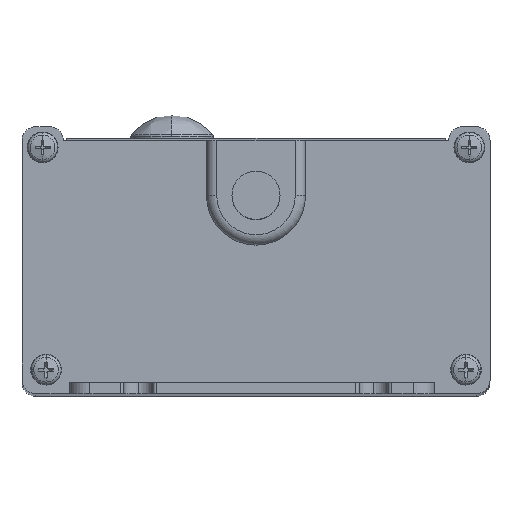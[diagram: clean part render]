
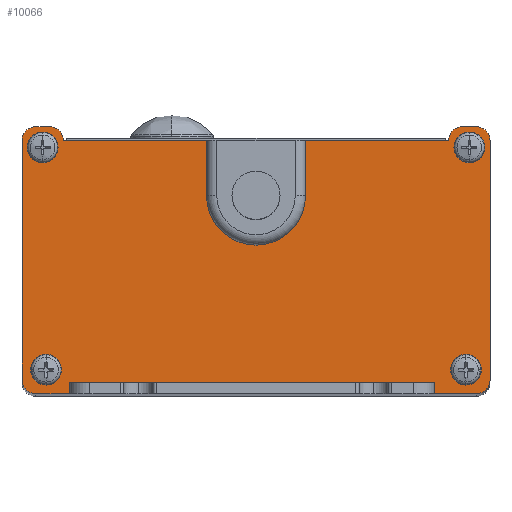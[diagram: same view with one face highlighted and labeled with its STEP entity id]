
A CAD part, top view. The second image highlights one B-rep face of the part: STEP entity #10066.
In plain terms, the highlighted planar face has unit normal (0, 0, 1).
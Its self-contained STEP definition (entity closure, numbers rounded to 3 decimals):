
#9029=DIRECTION('',(1.,0.,0.));
#9030=VECTOR('',#9029,53.);
#9031=CARTESIAN_POINT('',(-27.125,-27.2,1.6));
#9032=LINE('',#9031,#9030);
#9139=CARTESIAN_POINT('',(30.,8.,1.6));
#9140=DIRECTION('',(0.,0.,-1.));
#9141=DIRECTION('',(-1.,0.,0.));
#9142=AXIS2_PLACEMENT_3D('',#9139,#9140,#9141);
#9144=CARTESIAN_POINT('',(32.,8.,1.6));
#9145=DIRECTION('',(0.,0.,-1.));
#9146=DIRECTION('',(0.,1.,0.));
#9147=AXIS2_PLACEMENT_3D('',#9144,#9145,#9146);
#9149=CARTESIAN_POINT('',(32.,-26.8,1.6));
#9150=DIRECTION('',(0.,0.,-1.));
#9151=DIRECTION('',(1.,0.,0.));
#9152=AXIS2_PLACEMENT_3D('',#9149,#9150,#9151);
#9154=CARTESIAN_POINT('',(-32.,-26.8,1.6));
#9155=DIRECTION('',(0.,0.,-1.));
#9156=DIRECTION('',(0.,-1.,0.));
#9157=AXIS2_PLACEMENT_3D('',#9154,#9155,#9156);
#9159=CARTESIAN_POINT('',(-32.,8.,1.6));
#9160=DIRECTION('',(0.,0.,-1.));
#9161=DIRECTION('',(-1.,0.,0.));
#9162=AXIS2_PLACEMENT_3D('',#9159,#9160,#9161);
#9164=CARTESIAN_POINT('',(-30.,8.,1.6));
#9165=DIRECTION('',(0.,0.,-1.));
#9166=DIRECTION('',(0.,1.,0.));
#9167=AXIS2_PLACEMENT_3D('',#9164,#9165,#9166);
#9169=CARTESIAN_POINT('',(-5.75,7.5,1.6));
#9170=DIRECTION('',(0.,0.,-1.));
#9171=DIRECTION('',(0.,1.,0.));
#9172=AXIS2_PLACEMENT_3D('',#9169,#9170,#9171);
#9174=CARTESIAN_POINT('',(0.,0.,1.6));
#9175=DIRECTION('',(0.,0.,1.));
#9176=DIRECTION('',(-1.,0.,0.));
#9177=AXIS2_PLACEMENT_3D('',#9174,#9175,#9176);
#9179=CARTESIAN_POINT('',(5.75,7.5,1.6));
#9180=DIRECTION('',(0.,0.,-1.));
#9181=DIRECTION('',(-1.,0.,0.));
#9182=AXIS2_PLACEMENT_3D('',#9179,#9180,#9181);
#9184=CARTESIAN_POINT('',(31.,-25.8,1.6));
#9185=DIRECTION('',(0.,0.,1.));
#9186=DIRECTION('',(-1.,0.,0.));
#9187=AXIS2_PLACEMENT_3D('',#9184,#9185,#9186);
#9189=CARTESIAN_POINT('',(31.,-25.8,1.6));
#9190=DIRECTION('',(0.,0.,1.));
#9191=DIRECTION('',(1.,0.,0.));
#9192=AXIS2_PLACEMENT_3D('',#9189,#9190,#9191);
#9194=CARTESIAN_POINT('',(-31.,7.,1.6));
#9195=DIRECTION('',(0.,0.,1.));
#9196=DIRECTION('',(-1.,0.,0.));
#9197=AXIS2_PLACEMENT_3D('',#9194,#9195,#9196);
#9199=CARTESIAN_POINT('',(-31.,7.,1.6));
#9200=DIRECTION('',(0.,0.,1.));
#9201=DIRECTION('',(1.,0.,0.));
#9202=AXIS2_PLACEMENT_3D('',#9199,#9200,#9201);
#9204=CARTESIAN_POINT('',(-31.,-25.8,1.6));
#9205=DIRECTION('',(0.,0.,1.));
#9206=DIRECTION('',(-1.,0.,0.));
#9207=AXIS2_PLACEMENT_3D('',#9204,#9205,#9206);
#9209=CARTESIAN_POINT('',(-31.,-25.8,1.6));
#9210=DIRECTION('',(0.,0.,1.));
#9211=DIRECTION('',(1.,0.,0.));
#9212=AXIS2_PLACEMENT_3D('',#9209,#9210,#9211);
#9214=CARTESIAN_POINT('',(31.,7.,1.6));
#9215=DIRECTION('',(0.,0.,1.));
#9216=DIRECTION('',(-1.,0.,0.));
#9217=AXIS2_PLACEMENT_3D('',#9214,#9215,#9216);
#9219=CARTESIAN_POINT('',(31.,7.,1.6));
#9220=DIRECTION('',(0.,0.,1.));
#9221=DIRECTION('',(1.,0.,0.));
#9222=AXIS2_PLACEMENT_3D('',#9219,#9220,#9221);
#9224=DIRECTION('',(-1.,0.,0.));
#9225=VECTOR('',#9224,22.25);
#9226=CARTESIAN_POINT('',(28.,8.,1.6));
#9227=LINE('',#9226,#9225);
#9349=DIRECTION('',(0.,-1.,0.));
#9350=VECTOR('',#9349,7.5);
#9351=CARTESIAN_POINT('',(5.25,7.5,1.6));
#9352=LINE('',#9351,#9350);
#9361=DIRECTION('',(0.,1.,0.));
#9362=VECTOR('',#9361,7.5);
#9363=CARTESIAN_POINT('',(-5.25,0.,1.6));
#9364=LINE('',#9363,#9362);
#9373=DIRECTION('',(-1.,0.,0.));
#9374=VECTOR('',#9373,22.25);
#9375=CARTESIAN_POINT('',(-5.75,8.,1.6));
#9376=LINE('',#9375,#9374);
#9385=DIRECTION('',(-1.,0.,0.));
#9386=VECTOR('',#9385,2.);
#9387=CARTESIAN_POINT('',(-30.,10.,1.6));
#9388=LINE('',#9387,#9386);
#9397=DIRECTION('',(0.,-1.,0.));
#9398=VECTOR('',#9397,34.8);
#9399=CARTESIAN_POINT('',(-34.,8.,1.6));
#9400=LINE('',#9399,#9398);
#9409=DIRECTION('',(1.,0.,0.));
#9410=VECTOR('',#9409,6.125);
#9411=CARTESIAN_POINT('',(25.875,-28.8,1.6));
#9412=LINE('',#9411,#9410);
#9413=DIRECTION('',(1.,0.,0.));
#9414=VECTOR('',#9413,4.875);
#9415=CARTESIAN_POINT('',(-32.,-28.8,1.6));
#9416=LINE('',#9415,#9414);
#9503=DIRECTION('',(0.,1.,0.));
#9504=VECTOR('',#9503,34.8);
#9505=CARTESIAN_POINT('',(34.,-26.8,1.6));
#9506=LINE('',#9505,#9504);
#9515=DIRECTION('',(-1.,0.,0.));
#9516=VECTOR('',#9515,2.);
#9517=CARTESIAN_POINT('',(32.,10.,1.6));
#9518=LINE('',#9517,#9516);
#9527=DIRECTION('',(0.,1.,0.));
#9528=VECTOR('',#9527,1.6);
#9529=CARTESIAN_POINT('',(-27.125,-28.8,1.6));
#9530=LINE('',#9529,#9528);
#9635=DIRECTION('',(0.,-1.,0.));
#9636=VECTOR('',#9635,1.6);
#9637=CARTESIAN_POINT('',(25.875,-27.2,1.6));
#9638=LINE('',#9637,#9636);
#9715=CARTESIAN_POINT('',(-27.125,-27.2,1.6));
#9716=CARTESIAN_POINT('',(25.875,-27.2,1.6));
#9717=VERTEX_POINT('',#9715);
#9718=VERTEX_POINT('',#9716);
#9763=CARTESIAN_POINT('',(28.,8.,1.6));
#9764=CARTESIAN_POINT('',(5.75,8.,1.6));
#9765=VERTEX_POINT('',#9763);
#9766=VERTEX_POINT('',#9764);
#9767=CARTESIAN_POINT('',(30.,10.,1.6));
#9768=VERTEX_POINT('',#9767);
#9769=CARTESIAN_POINT('',(32.,10.,1.6));
#9770=VERTEX_POINT('',#9769);
#9771=CARTESIAN_POINT('',(34.,8.,1.6));
#9772=VERTEX_POINT('',#9771);
#9773=CARTESIAN_POINT('',(34.,-26.8,1.6));
#9774=VERTEX_POINT('',#9773);
#9775=CARTESIAN_POINT('',(32.,-28.8,1.6));
#9776=VERTEX_POINT('',#9775);
#9777=CARTESIAN_POINT('',(25.875,-28.8,1.6));
#9778=VERTEX_POINT('',#9777);
#9779=CARTESIAN_POINT('',(-27.125,-28.8,1.6));
#9780=VERTEX_POINT('',#9779);
#9781=CARTESIAN_POINT('',(-32.,-28.8,1.6));
#9782=VERTEX_POINT('',#9781);
#9783=CARTESIAN_POINT('',(-34.,-26.8,1.6));
#9784=VERTEX_POINT('',#9783);
#9785=CARTESIAN_POINT('',(-34.,8.,1.6));
#9786=VERTEX_POINT('',#9785);
#9787=CARTESIAN_POINT('',(-32.,10.,1.6));
#9788=VERTEX_POINT('',#9787);
#9789=CARTESIAN_POINT('',(-30.,10.,1.6));
#9790=VERTEX_POINT('',#9789);
#9791=CARTESIAN_POINT('',(-28.,8.,1.6));
#9792=VERTEX_POINT('',#9791);
#9793=CARTESIAN_POINT('',(-5.75,8.,1.6));
#9794=VERTEX_POINT('',#9793);
#9795=CARTESIAN_POINT('',(-5.25,7.5,1.6));
#9796=VERTEX_POINT('',#9795);
#9797=CARTESIAN_POINT('',(-5.25,0.,1.6));
#9798=VERTEX_POINT('',#9797);
#9799=CARTESIAN_POINT('',(5.25,0.,1.6));
#9800=VERTEX_POINT('',#9799);
#9801=CARTESIAN_POINT('',(5.25,7.5,1.6));
#9802=VERTEX_POINT('',#9801);
#9803=CARTESIAN_POINT('',(29.5,-25.8,1.6));
#9804=CARTESIAN_POINT('',(32.5,-25.8,1.6));
#9805=VERTEX_POINT('',#9803);
#9806=VERTEX_POINT('',#9804);
#9807=CARTESIAN_POINT('',(-32.5,7.,1.6));
#9808=CARTESIAN_POINT('',(-29.5,7.,1.6));
#9809=VERTEX_POINT('',#9807);
#9810=VERTEX_POINT('',#9808);
#9811=CARTESIAN_POINT('',(-32.5,-25.8,1.6));
#9812=CARTESIAN_POINT('',(-29.5,-25.8,1.6));
#9813=VERTEX_POINT('',#9811);
#9814=VERTEX_POINT('',#9812);
#9815=CARTESIAN_POINT('',(29.5,7.,1.6));
#9816=CARTESIAN_POINT('',(32.5,7.,1.6));
#9817=VERTEX_POINT('',#9815);
#9818=VERTEX_POINT('',#9816);
#9992=CARTESIAN_POINT('',(-32.,8.,1.6));
#9993=DIRECTION('',(0.,0.,-1.));
#9994=DIRECTION('',(-1.,0.,0.));
#9995=AXIS2_PLACEMENT_3D('',#9992,#9993,#9994);
#9996=PLANE('',#9995);
#9998=ORIENTED_EDGE('',*,*,#9997,.F.);
#10000=ORIENTED_EDGE('',*,*,#9999,.T.);
#10002=ORIENTED_EDGE('',*,*,#10001,.F.);
#10004=ORIENTED_EDGE('',*,*,#10003,.T.);
#10006=ORIENTED_EDGE('',*,*,#10005,.F.);
#10008=ORIENTED_EDGE('',*,*,#10007,.T.);
#10010=ORIENTED_EDGE('',*,*,#10009,.F.);
#10012=ORIENTED_EDGE('',*,*,#10011,.F.);
#10013=ORIENTED_EDGE('',*,*,#9936,.F.);
#10015=ORIENTED_EDGE('',*,*,#10014,.F.);
#10017=ORIENTED_EDGE('',*,*,#10016,.F.);
#10019=ORIENTED_EDGE('',*,*,#10018,.T.);
#10021=ORIENTED_EDGE('',*,*,#10020,.F.);
#10023=ORIENTED_EDGE('',*,*,#10022,.T.);
#10025=ORIENTED_EDGE('',*,*,#10024,.F.);
#10027=ORIENTED_EDGE('',*,*,#10026,.T.);
#10029=ORIENTED_EDGE('',*,*,#10028,.F.);
#10031=ORIENTED_EDGE('',*,*,#10030,.T.);
#10033=ORIENTED_EDGE('',*,*,#10032,.F.);
#10035=ORIENTED_EDGE('',*,*,#10034,.T.);
#10037=ORIENTED_EDGE('',*,*,#10036,.F.);
#10039=ORIENTED_EDGE('',*,*,#10038,.T.);
#10040=EDGE_LOOP('',(#9998,#10000,#10002,#10004,#10006,#10008,#10010,#10012,
#10013,#10015,#10017,#10019,#10021,#10023,#10025,#10027,#10029,#10031,#10033,
#10035,#10037,#10039));
#10041=FACE_OUTER_BOUND('',#10040,.F.);
#10043=ORIENTED_EDGE('',*,*,#10042,.T.);
#10045=ORIENTED_EDGE('',*,*,#10044,.T.);
#10046=EDGE_LOOP('',(#10043,#10045));
#10047=FACE_BOUND('',#10046,.F.);
#10049=ORIENTED_EDGE('',*,*,#10048,.T.);
#10051=ORIENTED_EDGE('',*,*,#10050,.T.);
#10052=EDGE_LOOP('',(#10049,#10051));
#10053=FACE_BOUND('',#10052,.F.);
#10055=ORIENTED_EDGE('',*,*,#10054,.T.);
#10057=ORIENTED_EDGE('',*,*,#10056,.T.);
#10058=EDGE_LOOP('',(#10055,#10057));
#10059=FACE_BOUND('',#10058,.F.);
#10061=ORIENTED_EDGE('',*,*,#10060,.T.);
#10063=ORIENTED_EDGE('',*,*,#10062,.T.);
#10064=EDGE_LOOP('',(#10061,#10063));
#10065=FACE_BOUND('',#10064,.F.);
#9143=CIRCLE('',#9142,2.);
#9148=CIRCLE('',#9147,2.);
#9153=CIRCLE('',#9152,2.);
#9158=CIRCLE('',#9157,2.);
#9163=CIRCLE('',#9162,2.);
#9168=CIRCLE('',#9167,2.);
#9173=CIRCLE('',#9172,0.5);
#9178=CIRCLE('',#9177,5.25);
#9183=CIRCLE('',#9182,0.5);
#9188=CIRCLE('',#9187,1.5);
#9193=CIRCLE('',#9192,1.5);
#9198=CIRCLE('',#9197,1.5);
#9203=CIRCLE('',#9202,1.5);
#9208=CIRCLE('',#9207,1.5);
#9213=CIRCLE('',#9212,1.5);
#9218=CIRCLE('',#9217,1.5);
#9223=CIRCLE('',#9222,1.5);
#9936=EDGE_CURVE('',#9717,#9718,#9032,.T.);
#9997=EDGE_CURVE('',#9765,#9766,#9227,.T.);
#9999=EDGE_CURVE('',#9765,#9768,#9143,.T.);
#10001=EDGE_CURVE('',#9770,#9768,#9518,.T.);
#10003=EDGE_CURVE('',#9770,#9772,#9148,.T.);
#10005=EDGE_CURVE('',#9774,#9772,#9506,.T.);
#10007=EDGE_CURVE('',#9774,#9776,#9153,.T.);
#10009=EDGE_CURVE('',#9778,#9776,#9412,.T.);
#10011=EDGE_CURVE('',#9718,#9778,#9638,.T.);
#10014=EDGE_CURVE('',#9780,#9717,#9530,.T.);
#10016=EDGE_CURVE('',#9782,#9780,#9416,.T.);
#10018=EDGE_CURVE('',#9782,#9784,#9158,.T.);
#10020=EDGE_CURVE('',#9786,#9784,#9400,.T.);
#10022=EDGE_CURVE('',#9786,#9788,#9163,.T.);
#10024=EDGE_CURVE('',#9790,#9788,#9388,.T.);
#10026=EDGE_CURVE('',#9790,#9792,#9168,.T.);
#10028=EDGE_CURVE('',#9794,#9792,#9376,.T.);
#10030=EDGE_CURVE('',#9794,#9796,#9173,.T.);
#10032=EDGE_CURVE('',#9798,#9796,#9364,.T.);
#10034=EDGE_CURVE('',#9798,#9800,#9178,.T.);
#10036=EDGE_CURVE('',#9802,#9800,#9352,.T.);
#10038=EDGE_CURVE('',#9802,#9766,#9183,.T.);
#10042=EDGE_CURVE('',#9805,#9806,#9188,.T.);
#10044=EDGE_CURVE('',#9806,#9805,#9193,.T.);
#10048=EDGE_CURVE('',#9809,#9810,#9198,.T.);
#10050=EDGE_CURVE('',#9810,#9809,#9203,.T.);
#10054=EDGE_CURVE('',#9813,#9814,#9208,.T.);
#10056=EDGE_CURVE('',#9814,#9813,#9213,.T.);
#10060=EDGE_CURVE('',#9817,#9818,#9218,.T.);
#10062=EDGE_CURVE('',#9818,#9817,#9223,.T.);
#10066=ADVANCED_FACE('',(#10041,#10047,#10053,#10059,#10065),#9996,.F.);
